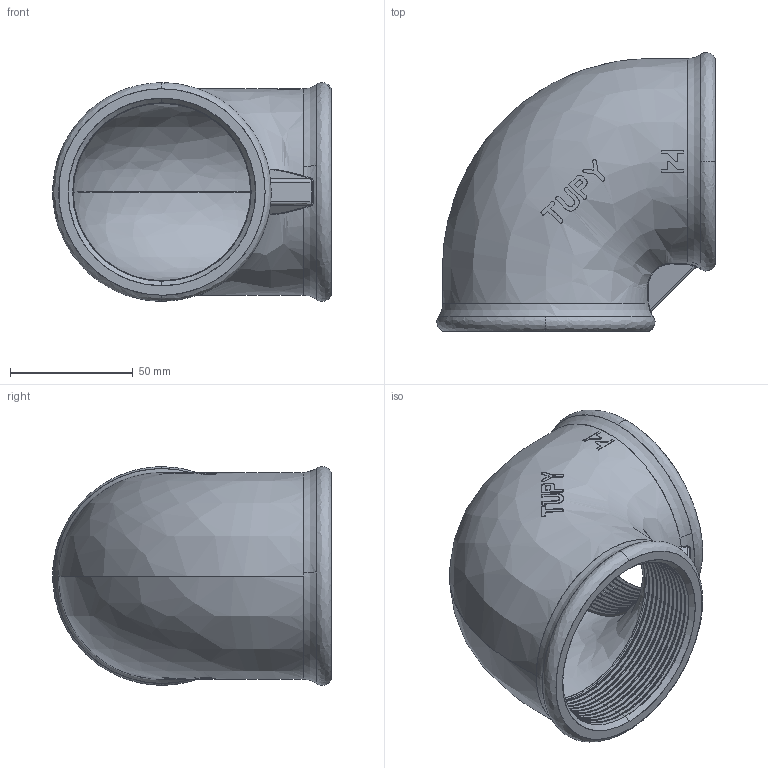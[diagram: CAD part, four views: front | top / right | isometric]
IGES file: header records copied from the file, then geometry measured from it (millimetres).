
Start section: SolidWorks IGES file using analytic representation for surfaces
Global section: file name: C:\Users\Joel Rosa\Desktop\Tubulação\12-07-OK\12-07-011.IGS; native system: SolidWorks 2011; preprocessor: SolidWorks 2011; author: Joel Rosa; date: 121204.004002; units: millimetre
Bounding box: 113.5 x 113.5 x 89 mm (x, y, z)
Surface area: 71454.7 mm2 (no closed solid volume)
Topology: 0 solids, 0 shells, 375 faces, 4255 edges, 4255 vertices
Faces by surface type: bspline 279, revolution 96
